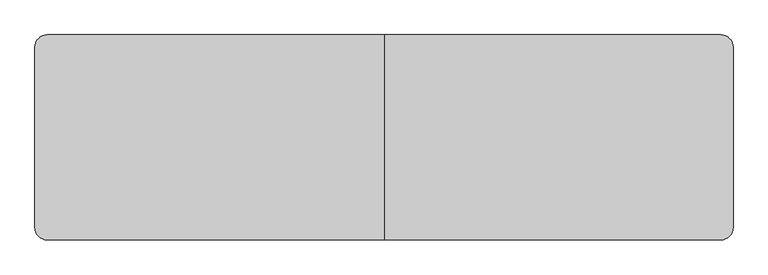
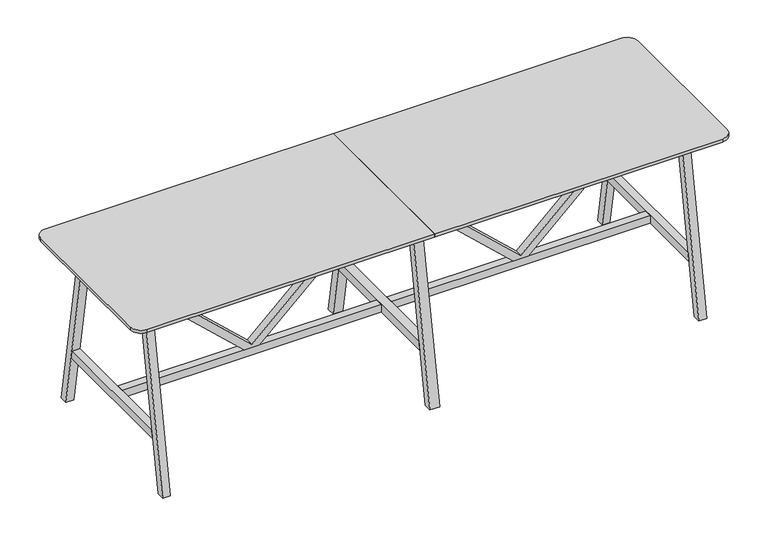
"""IFC4 building model written with IfcOpenShell, lengths in millimetres: furniture geometry, BDG_BossDesign_Tbls_AgentTables6Legs : AGE-HT-6L-3400-1000-3D."""

from ifc_helpers import new_model, si_unit, point, frame, frame_2d, origin, place, context, project, spatial, polyline, circle_curve, trimmed, segment, composite_curve, outline, extrude, source, transform, mapped, element, save


def furniture_18169ef0(model_context):
    return source(origin(), model_context, "Body", "SweptSolid", [
        extrude(outline(polyline([(345.0, 724.0823957), (345.0, 808.4176043), (992.0, 1505.0), (1032.0, 1505.0), (1032.0, 1485.0), (365.0, 766.25), (1032.0, 47.5), (1032.0, 27.5), (992.0, 27.5), (345.0, 724.0823957)])), frame((0.0, -22.5000305, 0.0), z_axis=(0.0, 1.0, 0.0), x_axis=(0.0, 0.0, 1.0)), (0.0, 0.0, 1.0), 45.000061),
        extrude(outline(polyline([(345.0, -724.0823957), (992.0, -27.5), (1032.0, -27.5), (1032.0, -47.5), (365.0, -766.25), (1032.0, -1485.0), (1032.0, -1505.0), (992.0, -1505.0), (345.0, -808.4176043), (345.0, -724.0823957)])), frame((0.0, -22.5000305, 0.0), z_axis=(0.0, 1.0, 0.0), x_axis=(0.0, 0.0, 1.0)), (0.0, 0.0, 1.0), 45.000061),
        extrude(outline(polyline([(500.0, 0.0), (454.9999949, 0.0), (285.5, 970.0), (330.5000051, 970.0), (500.0, 0.0)])), frame((-27.5, 0.0, 0.0), z_axis=(1.0, 0.0, 0.0), x_axis=(0.0, 1.0, 0.0)), (0.0, 0.0, 1.0), 55.0),
        extrude(outline(polyline([(-500.0, 0.0), (-330.5000051, 970.0), (-285.5, 970.0), (-454.9999949, 0.0), (-500.0, 0.0)])), frame((-27.5, 0.0, 0.0), z_axis=(1.0, 0.0, 0.0), x_axis=(0.0, 1.0, 0.0)), (0.0, 0.0, 1.0), 55.0),
        extrude(outline(polyline([(402.5773161, 300.0), (-402.5773161, 300.0), (-394.7139143, 345.0), (394.7139143, 345.0), (402.5773161, 300.0)])), frame((-27.5, 0.0, 0.0), z_axis=(1.0, 0.0, 0.0), x_axis=(0.0, 1.0, 0.0)), (0.0, 0.0, 1.0), 55.0),
        extrude(outline(composite_curve([segment(polyline([(0.0, 500.0), (0.0, -500.0), (-1640.0, -500.0)]), True, "CONTINUOUS"), segment(trimmed(circle_curve(frame_2d((-1640.0, -440.0)), 60.0), [point((-1640.0, -500.0))], [point((-1700.0, -440.0))], False, "CARTESIAN"), True, "CONTINUOUS"), segment(polyline([(-1700.0, -440.0), (-1700.0, 440.0)]), True, "CONTINUOUS"), segment(trimmed(circle_curve(frame_2d((-1640.0, 440.0)), 60.0), [point((-1700.0, 440.0))], [point((-1640.0, 500.0))], False, "CARTESIAN"), True, "CONTINUOUS"), segment(polyline([(-1640.0, 500.0), (0.0, 500.0)]), True, "CONTINUOUS")], self_intersect=False)), frame((0.0, 0.0, 1032.0), z_axis=(0.0, 0.0, 1.0), x_axis=(1.0, 0.0, 0.0)), (0.0, 0.0, 1.0), 18.0),
        extrude(outline(polyline([(-394.7139143, 345.0), (394.7139143, 345.0), (402.5773161, 300.0), (-402.5773161, 300.0), (-394.7139143, 345.0)])), frame((1505.0, 0.0, 0.0), z_axis=(1.0, 0.0, 0.0), x_axis=(0.0, 1.0, 0.0)), (0.0, 0.0, 1.0), 45.0),
        extrude(outline(polyline([(500.0, 0.0), (454.9999949, 0.0), (285.5, 970.0), (330.5000051, 970.0), (500.0, 0.0)])), frame((-1550.0, 0.0, 0.0), z_axis=(1.0, 0.0, 0.0), x_axis=(0.0, 1.0, 0.0)), (0.0, 0.0, 1.0), 45.0),
        extrude(outline(polyline([(-500.0, 0.0), (-330.5000051, 970.0), (-285.5, 970.0), (-454.9999949, 0.0), (-500.0, 0.0)])), frame((-1550.0, 0.0, 0.0), z_axis=(1.0, 0.0, 0.0), x_axis=(0.0, 1.0, 0.0)), (0.0, 0.0, 1.0), 45.0),
        extrude(outline(polyline([(-394.7139143, 345.0), (394.7139143, 345.0), (402.5773161, 300.0), (-402.5773161, 300.0), (-394.7139143, 345.0)])), frame((-1550.0, 0.0, 0.0), z_axis=(1.0, 0.0, 0.0), x_axis=(0.0, 1.0, 0.0)), (0.0, 0.0, 1.0), 45.0),
        extrude(outline(polyline([(-326.6006165, 944.973938), (-304.2770691, 1032.0), (-279.5, 1032.0), (-301.8235474, 944.973938), (-326.6006165, 944.973938)])), frame((-1505.0, 0.0, 0.0), z_axis=(1.0, 0.0, 0.0), x_axis=(0.0, 1.0, 0.0)), (0.0, 0.0, 1.0), 3010.0),
        extrude(outline(polyline([(326.6006165, 944.973938), (301.8235474, 944.973938), (279.5, 1032.0), (304.2770691, 1032.0), (326.6006165, 944.973938)])), frame((-1505.0, 0.0, 0.0), z_axis=(1.0, 0.0, 0.0), x_axis=(0.0, 1.0, 0.0)), (0.0, 0.0, 1.0), 3010.0),
        extrude(outline(polyline([(499.7999878, 0.0), (454.7999827, 0.0), (285.5, 970.0), (330.5000051, 970.0), (499.7999878, 0.0)])), frame((1505.0, 0.0, 0.0), z_axis=(1.0, 0.0, 0.0), x_axis=(0.0, 1.0, 0.0)), (0.0, 0.0, 1.0), 45.0),
        extrude(outline(polyline([(-499.7999878, 0.0), (-330.5000051, 970.0), (-285.5, 970.0), (-454.7999827, 0.0), (-499.7999878, 0.0)])), frame((1505.0, 0.0, 0.0), z_axis=(1.0, 0.0, 0.0), x_axis=(0.0, 1.0, 0.0)), (0.0, 0.0, 1.0), 45.0),
        extrude(outline(polyline([(-27.5, 22.5000305), (-27.5, -22.5000305), (-1505.0, -22.5000305), (-1505.0, 22.5000305), (-27.5, 22.5000305)])), frame((0.0, 0.0, 300.0), z_axis=(0.0, 0.0, 1.0), x_axis=(1.0, 0.0, 0.0)), (0.0, 0.0, 1.0), 45.0),
        extrude(outline(polyline([(27.5, -22.5000305), (27.5, 22.5000305), (1505.0, 22.5000305), (1505.0, -22.5000305), (27.5, -22.5000305)])), frame((0.0, 0.0, 300.0), z_axis=(0.0, 0.0, 1.0), x_axis=(1.0, 0.0, 0.0)), (0.0, 0.0, 1.0), 45.0),
        extrude(outline(composite_curve([segment(trimmed(circle_curve(frame_2d((1640.0, 440.0)), 60.0), [point((1640.0, 500.0))], [point((1700.0, 440.0))], False, "CARTESIAN"), True, "CONTINUOUS"), segment(polyline([(1700.0, 440.0), (1700.0, -440.0)]), True, "CONTINUOUS"), segment(trimmed(circle_curve(frame_2d((1640.0, -440.0)), 60.0), [point((1700.0, -440.0))], [point((1640.0, -500.0))], False, "CARTESIAN"), True, "CONTINUOUS"), segment(polyline([(1640.0, -500.0), (0.0, -500.0), (0.0, 500.0), (1640.0, 500.0)]), True, "CONTINUOUS")], self_intersect=False)), frame((0.0, 0.0, 1032.0), z_axis=(0.0, 0.0, 1.0), x_axis=(1.0, 0.0, 0.0)), (0.0, 0.0, 1.0), 18.0),
    ])


if __name__ == "__main__":
    model = new_model("IFC4")
    model_context = context("Model", 3, world=origin())
    ifc_project = project(units=[si_unit("LENGTHUNIT", "METRE", prefix="MILLI")], contexts=[model_context])
    site = spatial("IfcSite", under=ifc_project)
    building = spatial("IfcBuilding", under=site)
    placement = place(None, origin())
    furniture_shape = furniture_18169ef0(model_context)
    element("IfcFurniture", 1, ObjectType="BDG_BossDesign_Tbls_AgentTables6Legs : AGE-HT-6L-3400-1000-3D", at=placement, inside=building, context=model_context, shape_type="MappedRepresentation", body=[
        mapped(furniture_shape, transform((0.0, 0.0, 0.0), x_axis=(1.0, 0.0, 0.0), y_axis=(0.0, 1.0, 0.0), z_axis=(0.0, 0.0, 1.0))),
    ])
    save(model, "model.ifc")
